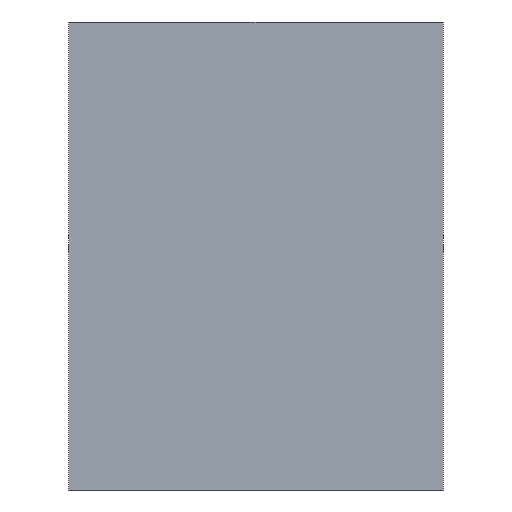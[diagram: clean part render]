
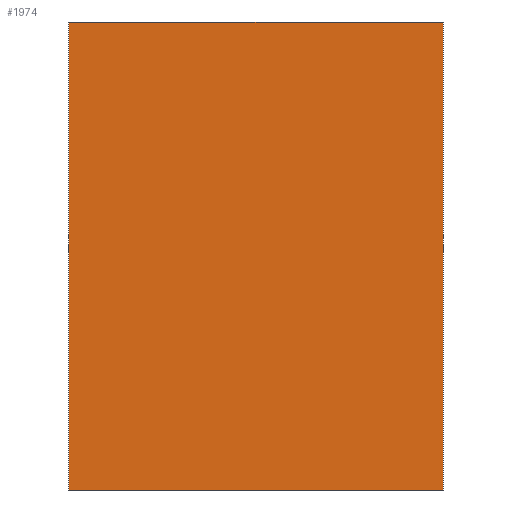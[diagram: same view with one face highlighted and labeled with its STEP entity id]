
A CAD part, left-side view. The second image highlights one B-rep face of the part: STEP entity #1974.
In plain terms, the highlighted planar face has unit normal (-1, 0, 0).
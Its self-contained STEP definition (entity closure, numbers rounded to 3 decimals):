
#35 = LINE ( 'NONE', #36, #38 ) ;
#36 = CARTESIAN_POINT ( 'NONE',  ( -150., 0., 50. ) ) ;
#38 = VECTOR ( 'NONE', #39, 1000. ) ;
#39 = DIRECTION ( 'NONE',  ( 0., 0., -1. ) ) ;
#73 = VERTEX_POINT ( 'NONE', #3745 ) ;
#269 = ORIENTED_EDGE ( 'NONE', *, *, #6151, .F. ) ;
#285 = CARTESIAN_POINT ( 'NONE',  ( -150., 40., 50. ) ) ;
#684 = CARTESIAN_POINT ( 'NONE',  ( -150., 0., 0. ) ) ;
#1974 = ADVANCED_FACE ( 'NONE', ( #4774 ), #4775, .F. ) ;
#2036 = EDGE_CURVE ( 'NONE', #73, #3618, #5078, .T. ) ;
#2072 = EDGE_CURVE ( 'NONE', #3496, #5936, #5162, .T. ) ;
#2092 = ORIENTED_EDGE ( 'NONE', *, *, #2072, .F. ) ;
#2105 = ORIENTED_EDGE ( 'NONE', *, *, #2036, .T. ) ;
#2178 = EDGE_LOOP ( 'NONE', ( #2105, #269, #2092, #2430 ) ) ;
#2229 = EDGE_CURVE ( 'NONE', #3496, #73, #5959, .T. ) ;
#2430 = ORIENTED_EDGE ( 'NONE', *, *, #2229, .T. ) ;
#3496 = VERTEX_POINT ( 'NONE', #285 ) ;
#3618 = VERTEX_POINT ( 'NONE', #684 ) ;
#3745 = CARTESIAN_POINT ( 'NONE',  ( -150., 40., 0. ) ) ;
#4774 = FACE_OUTER_BOUND ( 'NONE', #2178, .T. ) ;
#4775 = PLANE ( 'NONE',  #4776 ) ;
#4776 = AXIS2_PLACEMENT_3D ( 'NONE', #4777, #4782, #4783 ) ;
#4777 = CARTESIAN_POINT ( 'NONE',  ( -150., 0., 50. ) ) ;
#4782 = DIRECTION ( 'NONE',  ( 1., 0., 0. ) ) ;
#4783 = DIRECTION ( 'NONE',  ( 0., 0., -1. ) ) ;
#5078 = LINE ( 'NONE', #5079, #5080 ) ;
#5079 = CARTESIAN_POINT ( 'NONE',  ( -150., 0., 0. ) ) ;
#5080 = VECTOR ( 'NONE', #5081, 1000. ) ;
#5081 = DIRECTION ( 'NONE',  ( 0., -1., 0. ) ) ;
#5162 = LINE ( 'NONE', #5163, #5164 ) ;
#5163 = CARTESIAN_POINT ( 'NONE',  ( -150., 0., 50. ) ) ;
#5164 = VECTOR ( 'NONE', #5165, 1000. ) ;
#5165 = DIRECTION ( 'NONE',  ( 0., -1., 0. ) ) ;
#5936 = VERTEX_POINT ( 'NONE', #6084 ) ;
#5959 = LINE ( 'NONE', #5960, #5961 ) ;
#5960 = CARTESIAN_POINT ( 'NONE',  ( -150., 40., 50. ) ) ;
#5961 = VECTOR ( 'NONE', #5962, 1000. ) ;
#5962 = DIRECTION ( 'NONE',  ( 0., 0., -1. ) ) ;
#6084 = CARTESIAN_POINT ( 'NONE',  ( -150., 0., 50. ) ) ;
#6151 = EDGE_CURVE ( 'NONE', #5936, #3618, #35, .T. ) ;
